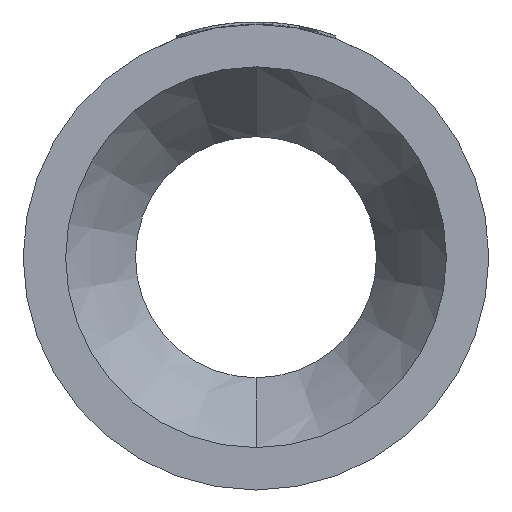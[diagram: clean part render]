
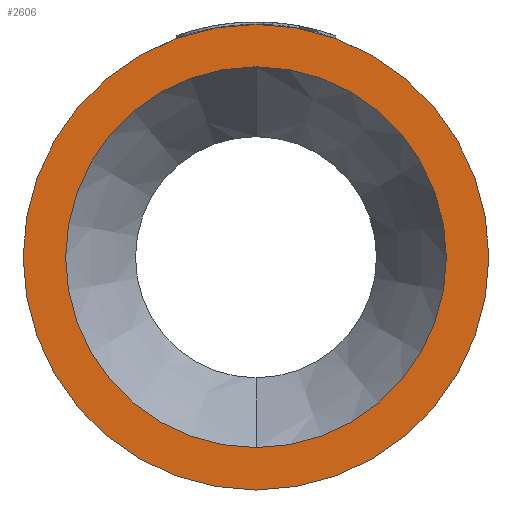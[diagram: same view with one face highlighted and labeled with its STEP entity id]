
A CAD part, left-side view. The second image highlights one B-rep face of the part: STEP entity #2606.
In plain terms, the highlighted planar face has unit normal (-1, 0, 0).
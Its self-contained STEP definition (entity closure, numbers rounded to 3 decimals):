
#2 = EDGE_CURVE ( 'NONE', #2623, #2505, #2018, .T. ) ;
#9 = CARTESIAN_POINT ( 'NONE',  ( 0., 0., -45. ) ) ;
#37 = CARTESIAN_POINT ( 'NONE',  ( 0., 0., 0. ) ) ;
#82 = DIRECTION ( 'NONE',  ( 0., 0., 1. ) ) ;
#88 = DIRECTION ( 'NONE',  ( -1., 0., 0. ) ) ;
#92 = EDGE_CURVE ( 'NONE', #599, #3404, #1977, .T. ) ;
#104 = CARTESIAN_POINT ( 'NONE',  ( 0., 0., 0. ) ) ;
#240 = ORIENTED_EDGE ( 'NONE', *, *, #436, .T. ) ;
#426 = EDGE_CURVE ( 'NONE', #3404, #599, #1555, .T. ) ;
#436 = EDGE_CURVE ( 'NONE', #2505, #2623, #1532, .T. ) ;
#462 = FACE_BOUND ( 'NONE', #2603, .T. ) ;
#572 = CARTESIAN_POINT ( 'NONE',  ( 0., 0., 36.8 ) ) ;
#599 = VERTEX_POINT ( 'NONE', #1202 ) ;
#726 = DIRECTION ( 'NONE',  ( 0., 0., 1. ) ) ;
#762 = AXIS2_PLACEMENT_3D ( 'NONE', #2642, #2634, #2632 ) ;
#925 = EDGE_LOOP ( 'NONE', ( #2678, #240 ) ) ;
#942 = FACE_OUTER_BOUND ( 'NONE', #925, .T. ) ;
#1046 = ORIENTED_EDGE ( 'NONE', *, *, #426, .F. ) ;
#1053 = DIRECTION ( 'NONE',  ( -1., 0., 0. ) ) ;
#1202 = CARTESIAN_POINT ( 'NONE',  ( 0., 0., -36.8 ) ) ;
#1515 = CARTESIAN_POINT ( 'NONE',  ( 0., 0., 0. ) ) ;
#1525 = CARTESIAN_POINT ( 'NONE',  ( 0., 0., 0. ) ) ;
#1532 = CIRCLE ( 'NONE', #2450, 45. ) ;
#1555 = CIRCLE ( 'NONE', #2486, 36.8 ) ;
#1737 = DIRECTION ( 'NONE',  ( 0., 0., 1. ) ) ;
#1880 = DIRECTION ( 'NONE',  ( -1., 0., 0. ) ) ;
#1977 = CIRCLE ( 'NONE', #3052, 36.8 ) ;
#2018 = CIRCLE ( 'NONE', #3106, 45. ) ;
#2094 = ORIENTED_EDGE ( 'NONE', *, *, #92, .F. ) ;
#2265 = CARTESIAN_POINT ( 'NONE',  ( 0., 0., 45. ) ) ;
#2450 = AXIS2_PLACEMENT_3D ( 'NONE', #37, #2771, #2725 ) ;
#2486 = AXIS2_PLACEMENT_3D ( 'NONE', #104, #88, #82 ) ;
#2505 = VERTEX_POINT ( 'NONE', #9 ) ;
#2603 = EDGE_LOOP ( 'NONE', ( #1046, #2094 ) ) ;
#2606 = ADVANCED_FACE ( 'NONE', ( #462, #942 ), #2752, .F. ) ;
#2623 = VERTEX_POINT ( 'NONE', #2265 ) ;
#2632 = DIRECTION ( 'NONE',  ( 0., 0., -1. ) ) ;
#2634 = DIRECTION ( 'NONE',  ( 1., 0., 0. ) ) ;
#2642 = CARTESIAN_POINT ( 'NONE',  ( 0., 36.8, 0. ) ) ;
#2678 = ORIENTED_EDGE ( 'NONE', *, *, #2, .T. ) ;
#2725 = DIRECTION ( 'NONE',  ( 0., 0., 1. ) ) ;
#2752 = PLANE ( 'NONE',  #762 ) ;
#2771 = DIRECTION ( 'NONE',  ( -1., 0., 0. ) ) ;
#3052 = AXIS2_PLACEMENT_3D ( 'NONE', #1525, #1053, #726 ) ;
#3106 = AXIS2_PLACEMENT_3D ( 'NONE', #1515, #1880, #1737 ) ;
#3404 = VERTEX_POINT ( 'NONE', #572 ) ;
